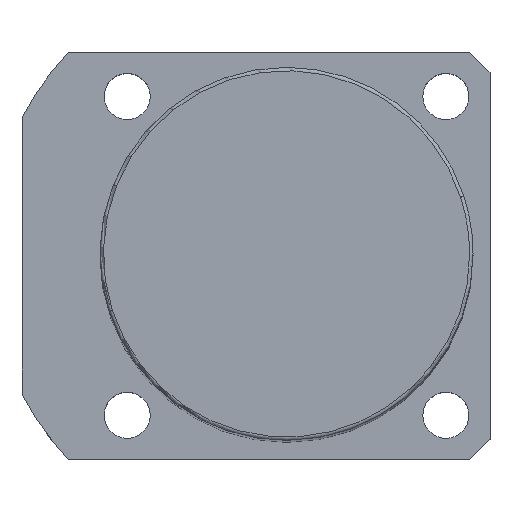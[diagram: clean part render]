
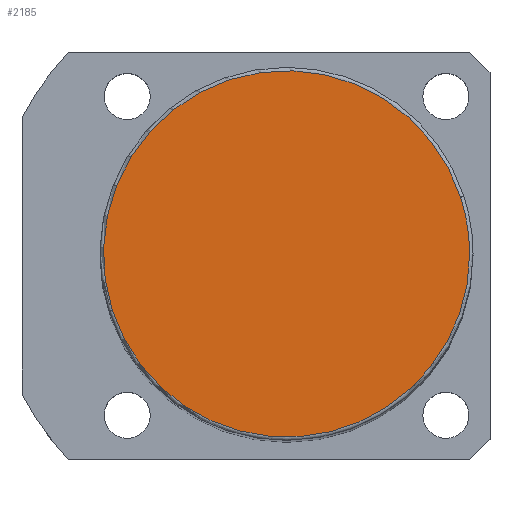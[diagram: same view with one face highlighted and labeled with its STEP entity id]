
A CAD part, top view. The second image highlights one B-rep face of the part: STEP entity #2185.
In plain terms, the highlighted planar face has unit normal (0, 0, 1).
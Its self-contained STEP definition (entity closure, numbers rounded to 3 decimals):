
#2118=CARTESIAN_POINT('',(25.679,8.343,181.0));
#2119=VERTEX_POINT('',#2118);
#2137=CARTESIAN_POINT('',(-25.679,-8.343,181.0));
#2138=VERTEX_POINT('',#2137);
#2146=CARTESIAN_POINT('',(0.0,0.0,181.0));
#2147=DIRECTION('',(0.0,0.0,1.0));
#2148=DIRECTION('',(1.0,0.0,0.0));
#2149=AXIS2_PLACEMENT_3D('',#2146,#2147,#2148);
#2150=CIRCLE('',#2149,27.0);
#2151=EDGE_CURVE('no 2154',#2119,#2138,#2150,.T.);
#2161=CARTESIAN_POINT('',(27.0,0.0,181.0));
#2162=VERTEX_POINT('',#2161);
#2163=CARTESIAN_POINT('',(0.0,0.0,181.0));
#2164=DIRECTION('',(0.0,0.0,1.0));
#2165=DIRECTION('',(1.0,0.0,0.0));
#2166=AXIS2_PLACEMENT_3D('',#2163,#2164,#2165);
#2167=CIRCLE('',#2166,27.0);
#2168=EDGE_CURVE('no 2163',#2162,#2119,#2167,.T.);
#2169=ORIENTED_EDGE('',*,*,#2168,.T.);
#2170=ORIENTED_EDGE('',*,*,#2151,.T.);
#2171=CARTESIAN_POINT('',(0.0,0.0,181.0));
#2172=DIRECTION('',(0.0,0.0,1.0));
#2173=DIRECTION('',(1.0,0.0,0.0));
#2174=AXIS2_PLACEMENT_3D('',#2171,#2172,#2173);
#2175=CIRCLE('',#2174,27.0);
#2176=EDGE_CURVE('no 2169',#2138,#2162,#2175,.T.);
#2177=ORIENTED_EDGE('',*,*,#2176,.T.);
#2178=EDGE_LOOP('',(#2169,#2170,#2177));
#2179=FACE_OUTER_BOUND('',#2178,.T.);
#2180=CARTESIAN_POINT('',(0.0,0.0,181.0));
#2181=DIRECTION('',(0.0,0.0,1.0));
#2182=DIRECTION('',(1.0,0.0,0.0));
#2183=AXIS2_PLACEMENT_3D('',#2180,#2181,#2182);
#2184=PLANE('',#2183);
#2185=ADVANCED_FACE('no 2156',(#2179),#2184,.T.);
